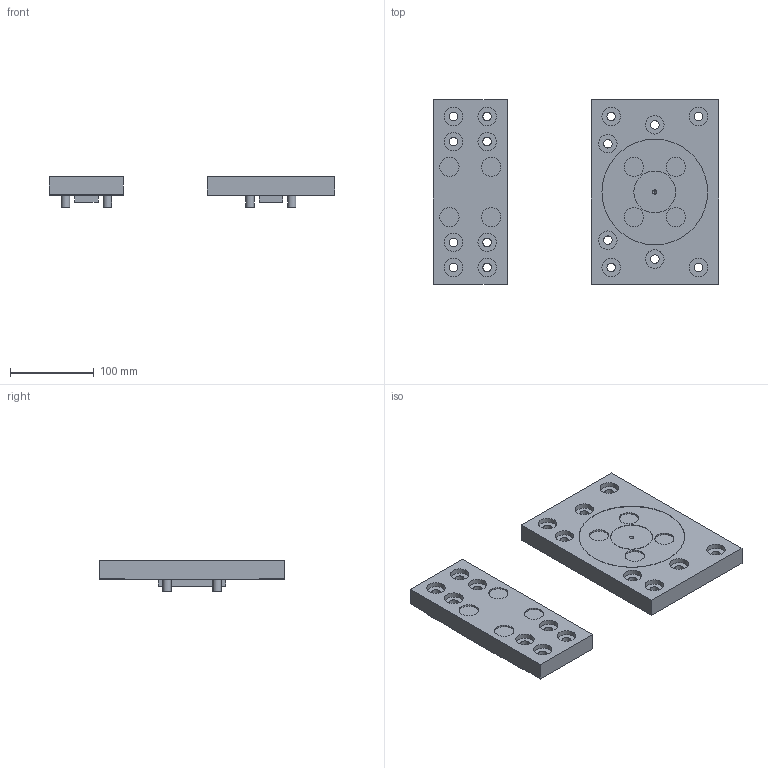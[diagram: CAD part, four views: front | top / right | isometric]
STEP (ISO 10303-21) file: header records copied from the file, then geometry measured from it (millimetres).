
FILE_DESCRIPTION(('STEP AP214'), '1');
FILE_NAME('BB.VS.160.33.010 捘', '', ('UNSPECIFIED'), ('UNSPECIFIED'), 'C3D Converter', 'C3D Toolkit', '');
FILE_SCHEMA(('AUTOMOTIVE_DESIGN { 1 0 10303 214 3 1 1}'));
Length unit declared in the file: millimetre
Products named in the file (3): BB.VS.160.33.010 СБ; BB.VS.160.32.010/002; BB.VS.160.32.020/002
Assembly tree (2 placements, depth 2):
  BB.VS.160.33.010 СБ
    BB.VS.160.32.010/002
    BB.VS.160.32.020/002
Bounding box: 340 x 220 x 36.5 mm (x, y, z)
Volume: 1136254.6 mm3; surface area: 156608.7 mm2
Topology: 2 solids, 2 shells, 127 faces, 258 edges, 170 vertices
Faces by surface type: plane 67, cylinder 56, cone 4
Full cylindrical faces by diameter (mm): 1.5 x2, 10 x8, 10.2 x16, 22 x16, 23 x8, 50 x1, 126 x1
Entity records: 4091 total; most frequent: CARTESIAN_POINT 868, DIRECTION 568, ORIENTED_EDGE 400, EDGE_LOOP 250, AXIS2_PLACEMENT_3D 242, EDGE_CURVE 200, VERTEX_POINT 168, FACE_BOUND 144
